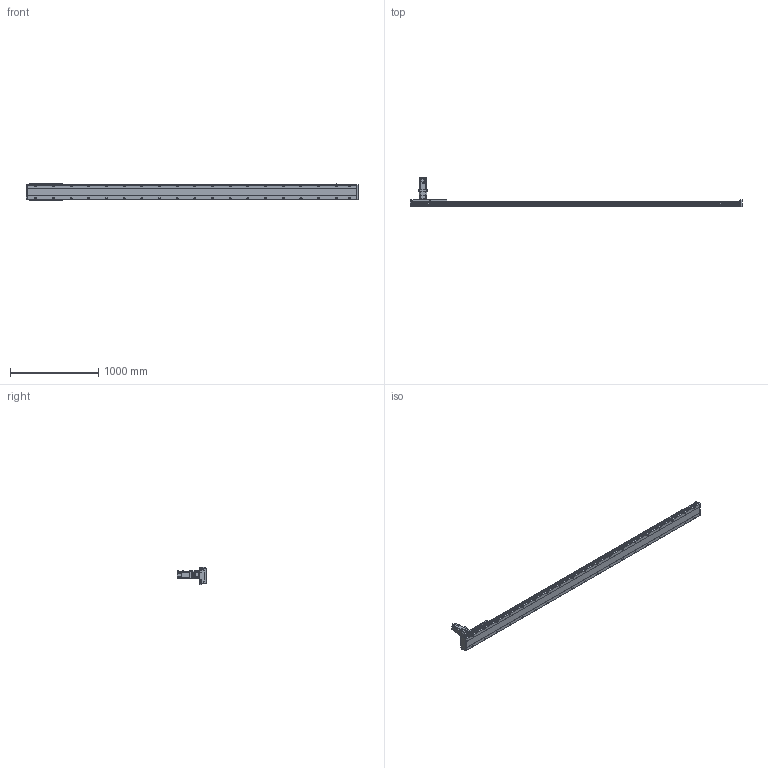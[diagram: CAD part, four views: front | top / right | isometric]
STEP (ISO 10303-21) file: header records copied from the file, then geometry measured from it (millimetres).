
FILE_DESCRIPTION(/* description */ ('STEP AP203'),/* implementation_level */ '2;1');
FILE_NAME(/* name */ 'SHS17A-L13-S3300-BC-T75-C1-N(0)',/* time_stamp */ '2023-03-27T08:58:36+02:00',/* author */ ('License CC BY-ND 4.0'),/* organization */ ('CADENAS'),/* preprocessor_version */ 'ST-DEVELOPER v19.3',/* originating_system */ 'PARTsolutions',/* authorisation */ ' ');
FILE_SCHEMA (('CONFIG_CONTROL_DESIGN'));
Length unit declared in the file: millimetre
Products named in the file (7): SHS17A-L13-S3300-BC-T75-C1-N(0); PSC140-sensor; SHS17A-S3300(0)_body2; T75-p1; SHS17A-S3300_body3; SHS17A-S3300-C1(0)_slider; SHS17A-S3300-C1(0)_body
Assembly tree (13 placements, depth 2):
  SHS17A-L13-S3300-BC-T75-C1-N(0)
    PSC140-sensor  x3
    SHS17A-S3300(0)_body2  x6
    T75-p1
    SHS17A-S3300_body3
    SHS17A-S3300-C1(0)_slider
    SHS17A-S3300-C1(0)_body
Bounding box: 3754 x 333.8 x 193.4 mm (x, y, z)
Volume: 26066008 mm3; surface area: 3002682.5 mm2
Topology: 13 solids, 13 shells, 2264 faces, 5766 edges, 3755 vertices
Faces by surface type: plane 1416, cylinder 753, cone 92, torus 3
Full cylindrical faces by diameter (mm): 2.8 x3, 4.134 x24, 4.5 x2, 4.6 x3, 4.917 x15, 5.5 x48, 6 x7, 6.5 x24, 6.647 x46, 6.8 x9, 8 x3, 8.5 x38, 10 x28, 11 x4, 14 x38, 22 x1, 24 x1, 24.2 x1, 28 x1, 28.2 x1, 28.8 x1, 29.8 x1, 48.542 x1, 68 x1, 70 x1, 78 x1, 80 x2
Entity records: 44738 total; most frequent: CARTESIAN_POINT 8858, DIRECTION 7273, ORIENTED_EDGE 7028, EDGE_CURVE 3514, AXIS2_PLACEMENT_3D 2584, VERTEX_POINT 2473, LINE 2105, VECTOR 2105
